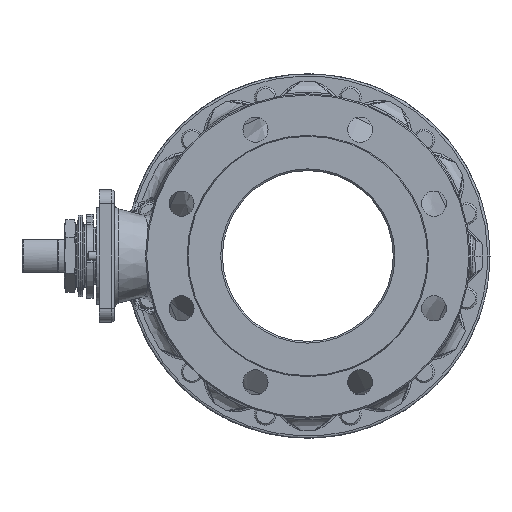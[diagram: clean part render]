
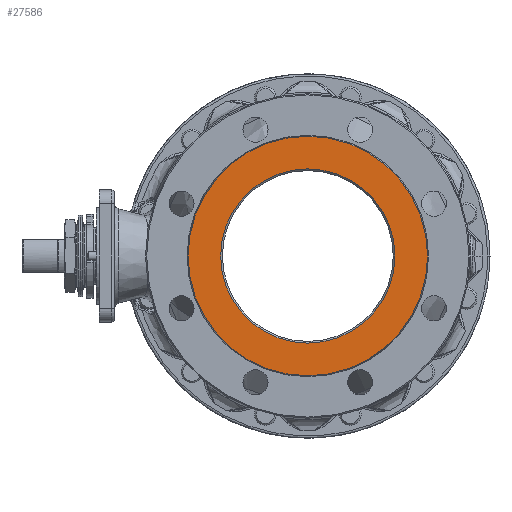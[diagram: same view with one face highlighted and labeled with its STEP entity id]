
A CAD part, left-side view. The second image highlights one B-rep face of the part: STEP entity #27586.
In plain terms, the highlighted planar face has unit normal (-1, 0, 0) as drawn and (0, -1, 0) by its records, which use the part's own axes.
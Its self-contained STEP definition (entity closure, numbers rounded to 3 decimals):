
#720 = CARTESIAN_POINT ( 'NONE',  ( 0., -96.5, -65.598 ) ) ;
#2917 = FACE_OUTER_BOUND ( 'NONE', #3137, .T. ) ;
#3137 = EDGE_LOOP ( 'NONE', ( #34604, #45138 ) ) ;
#4481 = AXIS2_PLACEMENT_3D ( 'NONE', #36167, #6980, #7200 ) ;
#5313 = AXIS2_PLACEMENT_3D ( 'NONE', #39080, #9912, #43982 ) ;
#5747 = ORIENTED_EDGE ( 'NONE', *, *, #26244, .F. ) ;
#6980 = DIRECTION ( 'NONE',  ( 0., -1., 0. ) ) ;
#7200 = DIRECTION ( 'NONE',  ( 0., 0., -1. ) ) ;
#9187 = DIRECTION ( 'NONE',  ( 0., -1., 0. ) ) ;
#9912 = DIRECTION ( 'NONE',  ( 0., -1., 0. ) ) ;
#10495 = VERTEX_POINT ( 'NONE', #20912 ) ;
#10608 = CARTESIAN_POINT ( 'NONE',  ( 0., -96.5, -13. ) ) ;
#13748 = CARTESIAN_POINT ( 'NONE',  ( 0., -96.5, -118.196 ) ) ;
#15076 = CIRCLE ( 'NONE', #61714, 105.196 ) ;
#18144 = ORIENTED_EDGE ( 'NONE', *, *, #26755, .F. ) ;
#19442 = CARTESIAN_POINT ( 'NONE',  ( 0., -96.5, 92.196 ) ) ;
#20438 = CIRCLE ( 'NONE', #5313, 76.5 ) ;
#20912 = CARTESIAN_POINT ( 'NONE',  ( 0., -96.5, 63.5 ) ) ;
#23957 = VERTEX_POINT ( 'NONE', #48199 ) ;
#26244 = EDGE_CURVE ( 'NONE', #10495, #23957, #52488, .T. ) ;
#26755 = EDGE_CURVE ( 'NONE', #23957, #10495, #20438, .T. ) ;
#27586 = ADVANCED_FACE ( 'NONE', ( #37192, #2917 ), #39231, .T. ) ;
#28970 = VERTEX_POINT ( 'NONE', #13748 ) ;
#33279 = CARTESIAN_POINT ( 'NONE',  ( 0., -96.5, -13. ) ) ;
#34149 = DIRECTION ( 'NONE',  ( 0., -1., 0. ) ) ;
#34604 = ORIENTED_EDGE ( 'NONE', *, *, #54636, .T. ) ;
#35715 = CIRCLE ( 'NONE', #55272, 105.196 ) ;
#35905 = AXIS2_PLACEMENT_3D ( 'NONE', #720, #34149, #53293 ) ;
#36167 = CARTESIAN_POINT ( 'NONE',  ( 0., -96.5, -13. ) ) ;
#37192 = FACE_BOUND ( 'NONE', #46403, .T. ) ;
#38353 = DIRECTION ( 'NONE',  ( 0., 0., 1. ) ) ;
#38496 = EDGE_CURVE ( 'NONE', #28970, #60880, #35715, .T. ) ;
#39080 = CARTESIAN_POINT ( 'NONE',  ( 0., -96.5, -13. ) ) ;
#39231 = PLANE ( 'NONE',  #35905 ) ;
#43982 = DIRECTION ( 'NONE',  ( 0., 0., -1. ) ) ;
#44680 = DIRECTION ( 'NONE',  ( 0., -1., 0. ) ) ;
#45138 = ORIENTED_EDGE ( 'NONE', *, *, #38496, .T. ) ;
#46403 = EDGE_LOOP ( 'NONE', ( #18144, #5747 ) ) ;
#48199 = CARTESIAN_POINT ( 'NONE',  ( 0., -96.5, -89.5 ) ) ;
#49579 = DIRECTION ( 'NONE',  ( 0., 0., 1. ) ) ;
#52488 = CIRCLE ( 'NONE', #4481, 76.5 ) ;
#53293 = DIRECTION ( 'NONE',  ( 0., 0., -1. ) ) ;
#54636 = EDGE_CURVE ( 'NONE', #60880, #28970, #15076, .T. ) ;
#55272 = AXIS2_PLACEMENT_3D ( 'NONE', #10608, #44680, #49579 ) ;
#60880 = VERTEX_POINT ( 'NONE', #19442 ) ;
#61714 = AXIS2_PLACEMENT_3D ( 'NONE', #33279, #9187, #38353 ) ;
